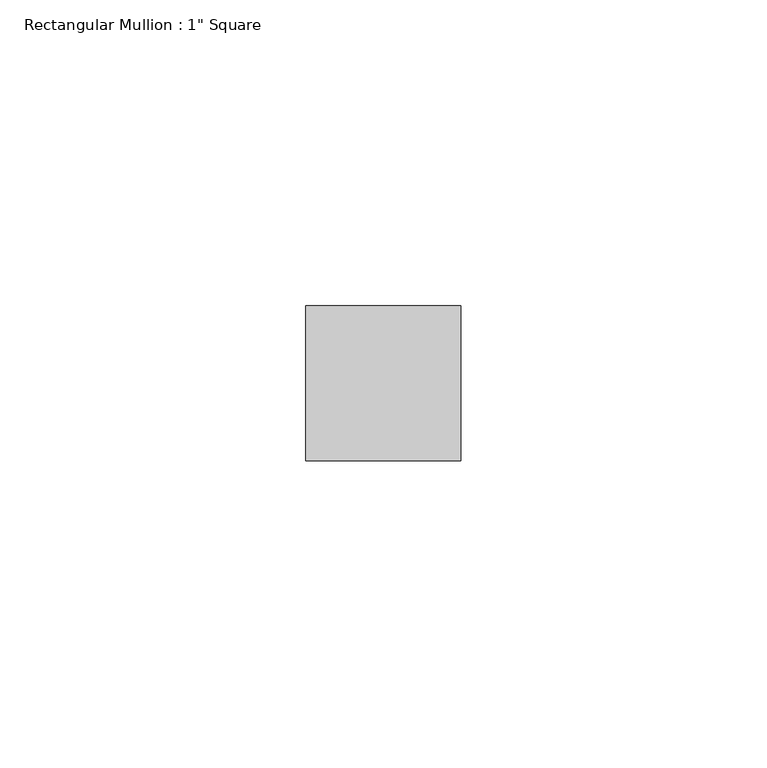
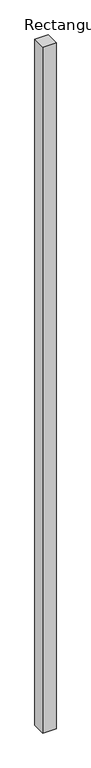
"""IFC4 building model written with IfcOpenShell, lengths in millimetres: member geometry."""

from ifc_helpers import new_model, si_unit, frame, origin, place, context, project, spatial, polyline, outline, extrude, source, transform, mapped, element, save


def member_5e0dc5e0(model_context):
    return source(origin(), model_context, "Body", "SweptSolid", [
        extrude(outline(polyline([(12.7, 12.7), (12.7, -12.7), (-12.7, -12.7), (-12.7, 12.7), (12.7, 12.7)])), frame((0.0, 0.0, -1373.471928), z_axis=(0.0, 0.0, 1.0), x_axis=(1.0, 0.0, 0.0)), (0.0, 0.0, 1.0), 1373.471928),
    ])


if __name__ == "__main__":
    model = new_model("IFC4")
    model_context = context("Model", 3, world=origin())
    ifc_project = project(units=[si_unit("LENGTHUNIT", "METRE", prefix="MILLI")], contexts=[model_context])
    site = spatial("IfcSite", under=ifc_project)
    building = spatial("IfcBuilding", under=site)
    placement = place(None, origin())
    member_shape = member_5e0dc5e0(model_context)
    element("IfcMember", 1, ObjectType="Rectangular Mullion : 1\" Square", at=placement, inside=building, context=model_context, shape_type="MappedRepresentation", body=[
        mapped(member_shape, transform((0.0, 0.0, 0.0), x_axis=(1.0, 0.0, 0.0), y_axis=(0.0, 1.0, 0.0), z_axis=(0.0, 0.0, 1.0))),
    ])
    save(model, "model.ifc")
